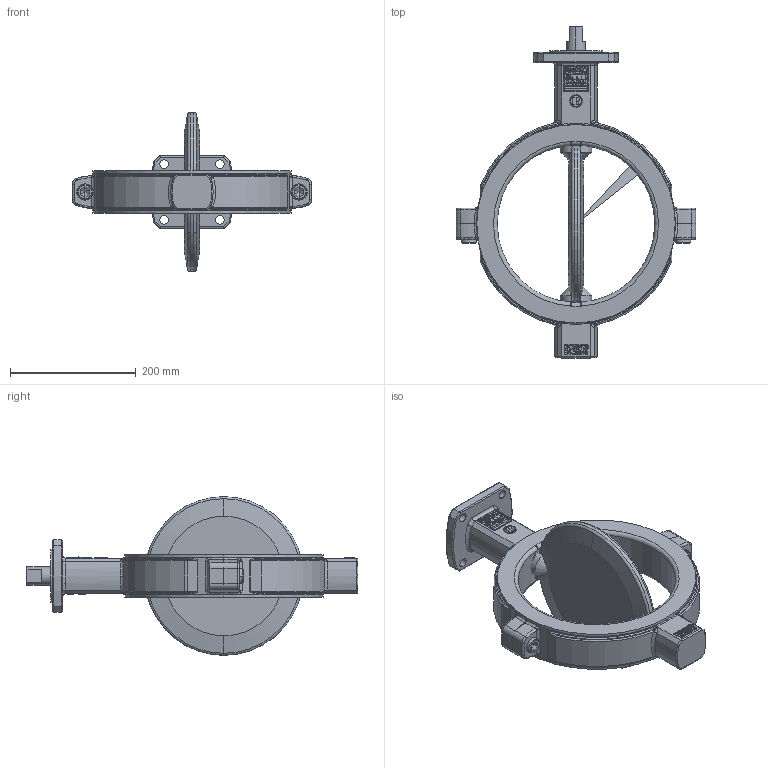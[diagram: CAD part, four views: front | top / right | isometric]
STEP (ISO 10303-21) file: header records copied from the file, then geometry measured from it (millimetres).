
FILE_DESCRIPTION((''),'2;1');
FILE_NAME('9520-00-5130_A_ASM','2014-05-01T',('SParmar1'),(''),'PRO/ENGINEER BY PARAMETRIC TECHNOLOGY CORPORATION, 2011040','PRO/ENGINEER BY PARAMETRIC TECHNOLOGY CORPORATION, 2011040','');
FILE_SCHEMA(('CONFIG_CONTROL_DESIGN'));
Products named in the file (5): 9527-18-7038; 9527-28-2103; 4111-51-1365; 4188_11_1060; 9520-00-5130_A_ASM
Assembly tree (5 placements, depth 2):
  9520-00-5130_A_ASM
    9527-18-7038
    9527-28-2103
    4111-51-1365  x2
    4188_11_1060
Bounding box: 380 x 527 x 252 mm (x, y, z)
Volume: 3856211.8 mm3; surface area: 529807.2 mm2
Topology: 5 solids, 5 shells, 3138 faces, 8662 edges, 5698 vertices
Faces by surface type: plane 2784, cylinder 172, bspline 92, torus 52, cone 26, extrusion 8, sphere 4
Entity records: 102963 total; most frequent: CARTESIAN_POINT 23874, ORIENTED_EDGE 17228, DIRECTION 14770, EDGE_CURVE 8614, VECTOR 7872, LINE 7864, VERTEX_POINT 5673, AXIS2_PLACEMENT_3D 3449
